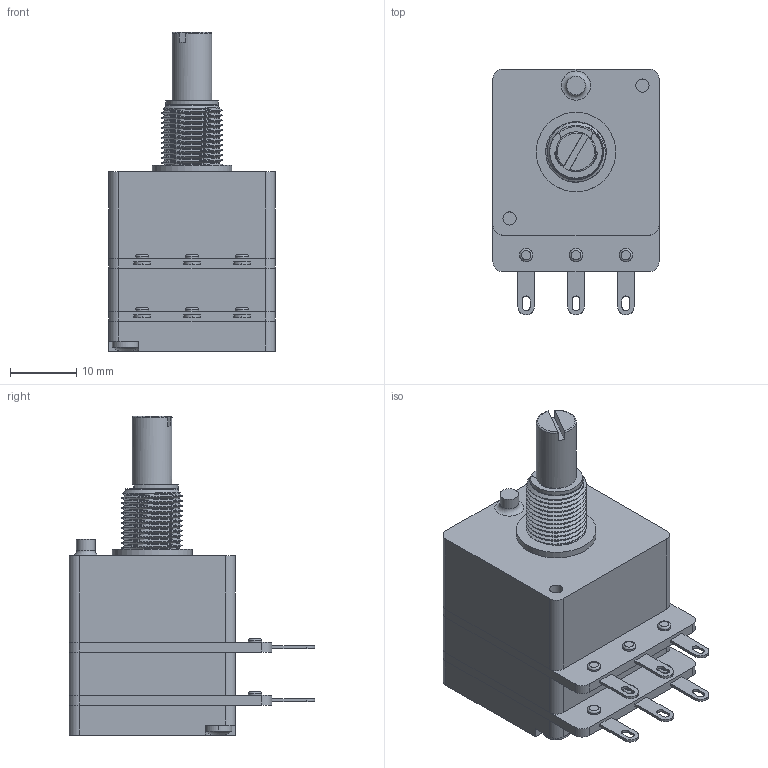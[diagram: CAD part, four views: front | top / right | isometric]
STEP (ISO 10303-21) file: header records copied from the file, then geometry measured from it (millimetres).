
FILE_DESCRIPTION(('FreeCAD Model'),'2;1');
FILE_NAME('Open CASCADE Shape Model','2024-02-26T16:06:23',(''),(''), 'Open CASCADE STEP processor 7.6','FreeCAD','Unknown');
FILE_SCHEMA(('AUTOMOTIVE_DESIGN { 1 0 10303 214 1 1 1 1 }'));
Length unit declared in the file: millimetre
Products named in the file (1): 2cp25xx-s20
Bounding box: 25 x 37 x 48.07 mm (x, y, z)
Volume: 18065.4 mm3; surface area: 6045.8 mm2
Topology: 1 solids, 11 shells, 329 faces, 774 edges, 481 vertices
Faces by surface type: plane 158, cylinder 107, bspline 38, cone 12, torus 10, sphere 2, revolution 2
Full cylindrical faces by diameter (mm): 1.9 x4, 2 x16, 2.2 x6, 2.8 x1, 4.5 x2, 5.4 x1, 6 x1, 6.05 x1, 8 x1, 9.09 x11, 12 x1
Entity records: 29368 total; most frequent: CARTESIAN_POINT 13752, DIRECTION 2605, ORIENTED_EDGE 1542, PCURVE 1542, DEFINITIONAL_REPRESENTATION 1542, LINE 1211, VECTOR 1211, EDGE_CURVE 771
